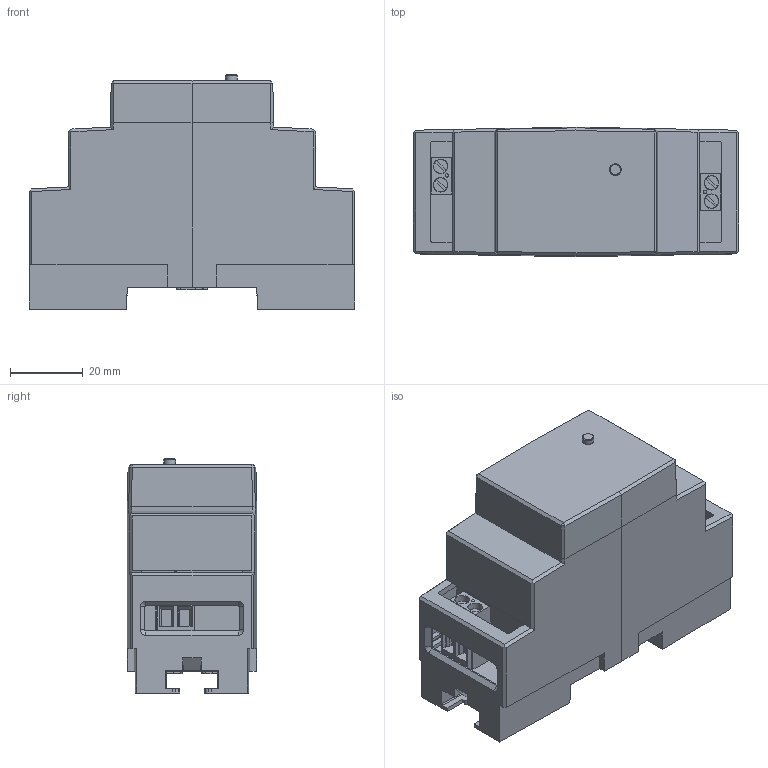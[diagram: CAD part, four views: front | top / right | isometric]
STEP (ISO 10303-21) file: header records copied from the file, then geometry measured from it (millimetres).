
FILE_DESCRIPTION(/* description */ (''),/* implementation_level */ '2;1');
FILE_NAME(/* name */ 'Y:\Inventor\Tridonic\Datamec\20190830_Daten_Roger\28000876\28000876.stp',/* time_stamp */ '2019-12-30T10:54:11+01:00',/* author */ ('muell'),/* organization */ (''),/* preprocessor_version */ 'ST-DEVELOPER v16.5',/* originating_system */ 'Autodesk Inventor 2017',/* authorisation */ '');
FILE_SCHEMA (('AUTOMOTIVE_DESIGN { 1 0 10303 214 3 1 1 }'));
Length unit declared in the file: millimetre
Products named in the file (1): 28000876
Bounding box: 89.5 x 35.5 x 64.3 mm (x, y, z)
Volume: 132790.8 mm3; surface area: 29406.9 mm2
Topology: 1 solids, 6 shells, 744 faces, 2013 edges, 1302 vertices
Faces by surface type: plane 584, cylinder 139, bspline 10, cone 9, sphere 2
Full cylindrical faces by diameter (mm): 2.6 x1, 2.8 x1, 3.2 x1, 3.8 x4, 4 x4
Entity records: 23907 total; most frequent: CARTESIAN_POINT 4348, ORIENTED_EDGE 3992, DIRECTION 3741, EDGE_CURVE 1996, LINE 1673, VECTOR 1673, VERTEX_POINT 1297, AXIS2_PLACEMENT_3D 1034
